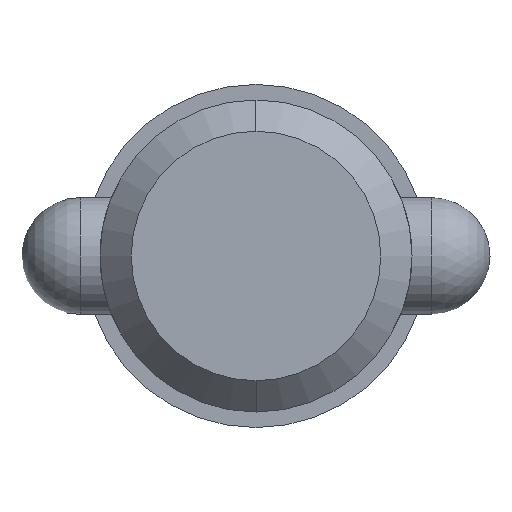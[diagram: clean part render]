
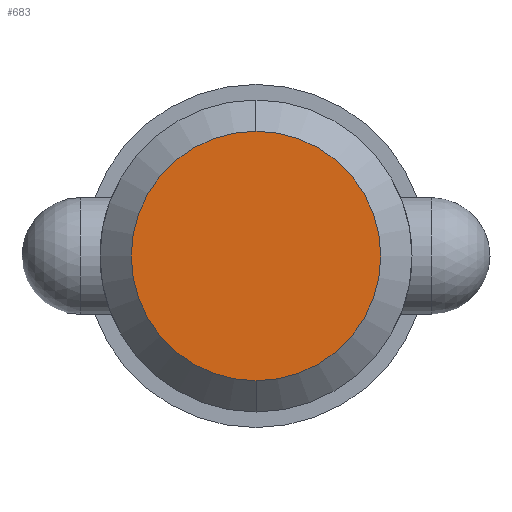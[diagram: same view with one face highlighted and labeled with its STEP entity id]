
A CAD part, left-side view. The second image highlights one B-rep face of the part: STEP entity #683.
In plain terms, the highlighted planar face has unit normal (-1, 0, 0).
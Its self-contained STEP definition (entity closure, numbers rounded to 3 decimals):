
#37 = CARTESIAN_POINT ( 'NONE',  ( 0., 0., 10.16 ) ) ;
#141 = DIRECTION ( 'NONE',  ( 0., 0., -1. ) ) ;
#153 = AXIS2_PLACEMENT_3D ( 'NONE', #234, #814, #227 ) ;
#223 = CIRCLE ( 'NONE', #362, 10.16 ) ;
#227 = DIRECTION ( 'NONE',  ( 0., 0., 1. ) ) ;
#234 = CARTESIAN_POINT ( 'NONE',  ( 0., 0., 0. ) ) ;
#351 = CARTESIAN_POINT ( 'NONE',  ( 0., 0., 0. ) ) ;
#362 = AXIS2_PLACEMENT_3D ( 'NONE', #551, #880, #141 ) ;
#382 = VERTEX_POINT ( 'NONE', #799 ) ;
#399 = EDGE_CURVE ( 'NONE', #1057, #382, #223, .T. ) ;
#425 = DIRECTION ( 'NONE',  ( 1., 0., 0. ) ) ;
#551 = CARTESIAN_POINT ( 'NONE',  ( 0., 0., 0. ) ) ;
#598 = EDGE_LOOP ( 'NONE', ( #1030, #709 ) ) ;
#683 = ADVANCED_FACE ( 'NONE', ( #983 ), #967, .T. ) ;
#709 = ORIENTED_EDGE ( 'NONE', *, *, #399, .F. ) ;
#781 = EDGE_CURVE ( 'NONE', #382, #1057, #809, .T. ) ;
#799 = CARTESIAN_POINT ( 'NONE',  ( 0., 0., -10.16 ) ) ;
#809 = CIRCLE ( 'NONE', #877, 10.16 ) ;
#814 = DIRECTION ( 'NONE',  ( -1., 0., 0. ) ) ;
#877 = AXIS2_PLACEMENT_3D ( 'NONE', #351, #425, #1018 ) ;
#880 = DIRECTION ( 'NONE',  ( 1., 0., 0. ) ) ;
#967 = PLANE ( 'NONE',  #153 ) ;
#983 = FACE_OUTER_BOUND ( 'NONE', #598, .T. ) ;
#1018 = DIRECTION ( 'NONE',  ( 0., 0., -1. ) ) ;
#1030 = ORIENTED_EDGE ( 'NONE', *, *, #781, .F. ) ;
#1057 = VERTEX_POINT ( 'NONE', #37 ) ;
